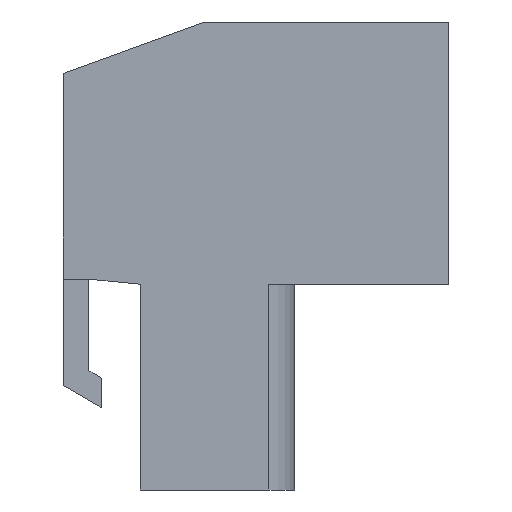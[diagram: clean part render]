
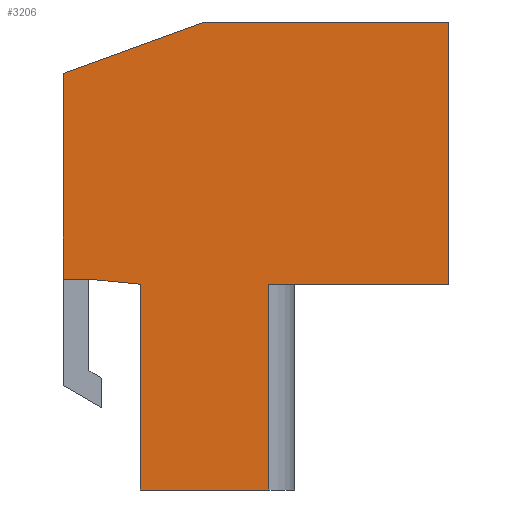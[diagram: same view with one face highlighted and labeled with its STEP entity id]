
A CAD part, left-side view. The second image highlights one B-rep face of the part: STEP entity #3206.
In plain terms, the highlighted planar face has unit normal (-1, 0, 0).
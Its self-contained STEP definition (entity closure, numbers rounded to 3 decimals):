
#398=ORIENTED_EDGE('',*,*,#890,.F.);
#399=ORIENTED_EDGE('',*,*,#939,.F.);
#400=ORIENTED_EDGE('',*,*,#926,.F.);
#401=ORIENTED_EDGE('',*,*,#917,.F.);
#402=ORIENTED_EDGE('',*,*,#762,.F.);
#403=ORIENTED_EDGE('',*,*,#905,.F.);
#404=ORIENTED_EDGE('',*,*,#771,.F.);
#405=ORIENTED_EDGE('',*,*,#814,.T.);
#406=ORIENTED_EDGE('',*,*,#953,.T.);
#407=ORIENTED_EDGE('',*,*,#894,.F.);
#762=EDGE_CURVE('',#1066,#1067,#1274,.T.);
#771=EDGE_CURVE('',#1075,#1076,#1283,.T.);
#814=EDGE_CURVE('',#1075,#1113,#1314,.T.);
#890=EDGE_CURVE('',#1173,#1174,#1371,.T.);
#894=EDGE_CURVE('',#1174,#1177,#1375,.T.);
#905=EDGE_CURVE('',#1076,#1066,#1382,.T.);
#917=EDGE_CURVE('',#1067,#1195,#1390,.T.);
#926=EDGE_CURVE('',#1195,#1201,#1399,.T.);
#939=EDGE_CURVE('',#1201,#1173,#1412,.T.);
#953=EDGE_CURVE('',#1113,#1177,#1425,.T.);
#1066=VERTEX_POINT('',#4187);
#1067=VERTEX_POINT('',#4189);
#1075=VERTEX_POINT('',#4207);
#1076=VERTEX_POINT('',#4209);
#1113=VERTEX_POINT('',#4289);
#1173=VERTEX_POINT('',#4475);
#1174=VERTEX_POINT('',#4476);
#1177=VERTEX_POINT('',#4484);
#1195=VERTEX_POINT('',#4528);
#1201=VERTEX_POINT('',#4544);
#1274=LINE('',#4188,#1486);
#1283=LINE('',#4208,#1495);
#1314=LINE('',#4290,#1526);
#1371=LINE('',#4474,#1583);
#1375=LINE('',#4483,#1587);
#1382=LINE('',#4505,#1594);
#1390=LINE('',#4527,#1602);
#1399=LINE('',#4543,#1611);
#1412=LINE('',#4561,#1624);
#1425=LINE('',#4588,#1637);
#1486=VECTOR('',#3537,1000.);
#1495=VECTOR('',#3550,1000.);
#1526=VECTOR('',#3607,1000.);
#1583=VECTOR('',#3736,1000.);
#1587=VECTOR('',#3742,1000.);
#1594=VECTOR('',#3759,1000.);
#1602=VECTOR('',#3779,1000.);
#1611=VECTOR('',#3790,1000.);
#1624=VECTOR('',#3805,1000.);
#1637=VECTOR('',#3832,1000.);
#1752=EDGE_LOOP('',(#398,#399,#400,#401,#402,#403,#404,#405,#406,#407));
#1938=FACE_BOUND('',#1752,.T.);
#2104=PLANE('',#3385);
#3206=ADVANCED_FACE('',(#1938),#2104,.T.);
#3385=AXIS2_PLACEMENT_3D('',#4587,#3830,#3831);
#3537=DIRECTION('',(0.,1.,0.));
#3550=DIRECTION('',(0.,0.,1.));
#3607=DIRECTION('',(0.,-1.,0.));
#3736=DIRECTION('',(0.,0.,-1.));
#3742=DIRECTION('',(0.,1.,0.));
#3759=DIRECTION('',(0.,0.995,0.1));
#3779=DIRECTION('',(0.,0.,1.));
#3790=DIRECTION('',(0.,-0.94,0.342));
#3805=DIRECTION('',(0.,-1.,0.));
#3830=DIRECTION('',(-1.,0.,0.));
#3831=DIRECTION('',(0.,0.,1.));
#3832=DIRECTION('',(0.,0.,1.));
#4187=CARTESIAN_POINT('',(-10.,14.,-10.));
#4188=CARTESIAN_POINT('',(-10.,14.,-10.));
#4189=CARTESIAN_POINT('',(-10.,15.,-10.));
#4207=CARTESIAN_POINT('',(-10.,12.,-18.2));
#4208=CARTESIAN_POINT('',(-10.,12.,-18.2));
#4209=CARTESIAN_POINT('',(-10.,12.,-10.2));
#4289=CARTESIAN_POINT('',(-10.,7.,-18.2));
#4290=CARTESIAN_POINT('',(-10.,12.,-18.2));
#4474=CARTESIAN_POINT('',(-10.,0.,0.));
#4475=CARTESIAN_POINT('',(-10.,0.,0.));
#4476=CARTESIAN_POINT('',(-10.,0.,-10.2));
#4483=CARTESIAN_POINT('',(-10.,0.,-10.2));
#4484=CARTESIAN_POINT('',(-10.,7.,-10.2));
#4505=CARTESIAN_POINT('',(-10.,12.,-10.2));
#4527=CARTESIAN_POINT('',(-10.,15.,-10.));
#4528=CARTESIAN_POINT('',(-10.,15.,-2.));
#4543=CARTESIAN_POINT('',(-10.,15.,-2.));
#4544=CARTESIAN_POINT('',(-10.,9.505,0.));
#4561=CARTESIAN_POINT('',(-10.,9.505,0.));
#4587=CARTESIAN_POINT('',(-10.,0.,0.));
#4588=CARTESIAN_POINT('',(-10.,7.,-18.2));
